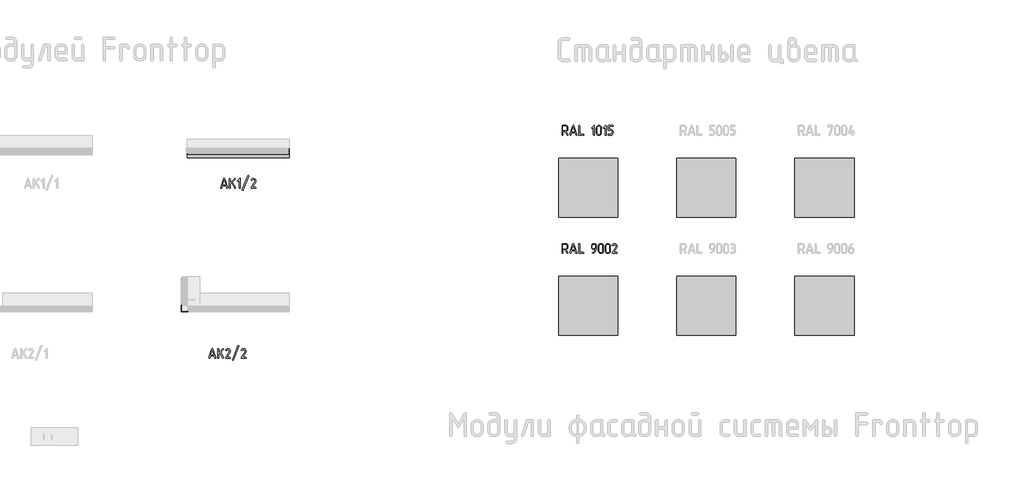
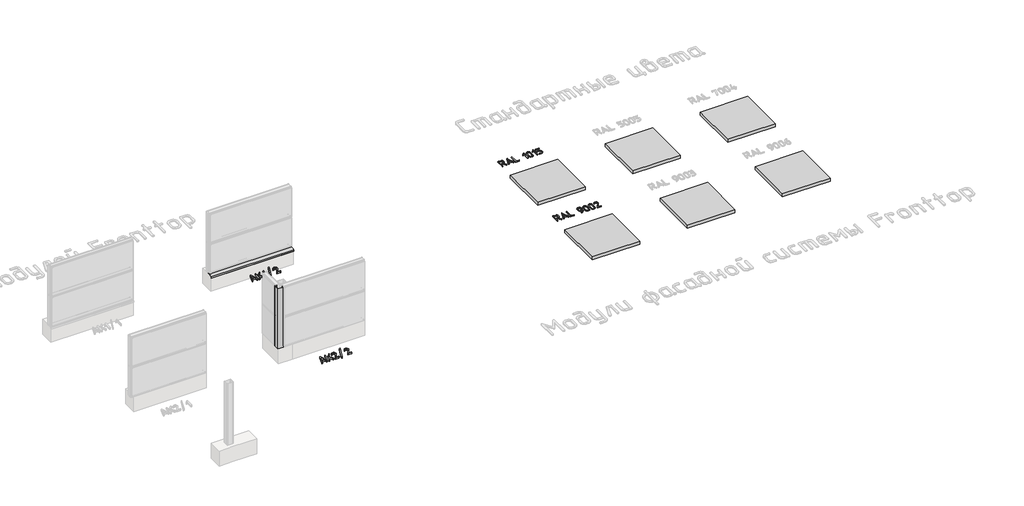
# One storey, part 22 of 37: 7 proxies.
"""IFC4 building model written with IfcOpenShell, lengths in millimetres."""

from ifc_helpers import new_model, si_unit, origin, origin_with_axes, place, context, project, spatial, polyline, outline, extrude, transform, mapped, element, save
from components import generic_models_6102174b, generic_models_f85f93ed, generic_models_7526b103

model = new_model("IFC4")

# Units and contexts
model_context = context("Model", 3, world=origin())
ifc_project = project(units=[si_unit("LENGTHUNIT", "METRE", prefix="MILLI")], contexts=[model_context])

# Site, building, storey
site = spatial("IfcSite", under=ifc_project)
building = spatial("IfcBuilding", under=site)
storey = spatial("IfcBuildingStorey", under=building, Name="Этаж 01", Elevation=0.0)

# Proxies
placement = place(None, origin())
element("IfcBuildingElementProxy", 1, Name="250 мм ГОСТ 2.304", ObjectType="250 мм ГОСТ 2.304", at=placement, inside=storey, context=model_context, shape_type="SweptSolid", body=[
    extrude(outline(polyline([(60439.8621304, -8724.8983844), (60490.1709623, -8805.0546203), (60491.9855844, -8812.3756817), (60488.1686208, -8820.760487), (60479.2206569, -8824.3897311), (60473.4795681, -8822.9349048), (60469.3966685, -8818.5704259), (60410.3275922, -8724.8983844), (60367.7152607, -8724.8983844), (60367.7152607, -8812.0002426), (60364.2424495, -8821.292359), (60355.3257722, -8824.3897311), (60346.3778083, -8821.1046395), (60342.5608447, -8812.0002426), (60342.5608447, -8587.8631332), (60345.7520766, -8578.2894376), (60355.3257722, -8575.0982057), (60442.4276305, -8575.0982057), (60461.5593785, -8578.7430931), (60477.4060348, -8589.6777552), (60488.340697, -8605.8059908), (60491.9855844, -8625.0315986), (60491.9855844, -8674.9649915), (60488.340697, -8694.1905992), (60477.4060348, -8710.3188348), (60461.5593785, -8721.253497), (60442.4276305, -8724.8983844), (60439.8621304, -8724.8983844)]), holes=[polyline([(60367.7152607, -8699.7439684), (60442.4276305, -8699.7439684), (60451.8996447, -8697.9684546), (60459.9168327, -8692.6419131), (60465.3841637, -8684.6716551), (60467.2066074, -8674.9649915), (60467.2066074, -8625.0315986), (60465.3841637, -8615.3249349), (60459.9168327, -8607.3546769), (60451.8996447, -8602.0281355), (60442.4276305, -8600.2526216), (60367.7152607, -8600.2526216), (60367.7152607, -8699.7439684)])]), origin_with_axes(), (0.0, 0.0, 1.0), 20.0),
    extrude(outline(polyline([(60586.5336504, -8761.6914107), (60568.7002958, -8815.6294867), (60564.4922498, -8821.9180907), (60556.9991122, -8824.0142921), (60548.2388678, -8820.7292004), (60544.2341847, -8812.3756817), (60545.3605018, -8807.6201205), (60620.0728717, -8583.483011), (60624.9848658, -8575.5518612), (60631.711482, -8572.9081446), (60638.8135373, -8575.5518612), (60643.3500924, -8583.483011), (60718.4379013, -8807.6201205), (60719.1887793, -8812.3756817), (60715.1840962, -8820.7292004), (60706.4238518, -8824.0142921), (60700.9799857, -8823.3259871), (60694.7852415, -8815.6294867), (60676.8893137, -8761.6914107), (60586.5336504, -8761.6914107)]), holes=[polyline([(60668.5045084, -8736.5369947), (60631.711482, -8626.5333547), (60594.9184557, -8736.5369947), (60668.5045084, -8736.5369947)])]), origin_with_axes(), (0.0, 0.0, 1.0), 20.0),
    extrude(outline(polyline([(60879.3135317, -8824.3897311), (60779.822185, -8824.3897311), (60770.2484894, -8821.292359), (60767.0572575, -8812.0002426), (60767.0572575, -8587.8631332), (60770.7177882, -8578.5710168), (60779.822185, -8575.0982057), (60788.3947099, -8578.3832973), (60792.2116735, -8587.8631332), (60792.2116735, -8799.6107542), (60879.3135317, -8799.6107542), (60888.6056481, -8803.0835653), (60891.7030202, -8812.0002426), (60888.4179286, -8820.5727675), (60879.3135317, -8824.3897311)])), origin_with_axes(), (0.0, 0.0, 1.0), 20.0),
    extrude(outline(polyline([(61166.1489616, -8812.0002426), (61162.6761504, -8821.292359), (61153.7594731, -8824.3897311), (61145.1869483, -8821.1046395), (61141.3699847, -8812.0002426), (61141.3699847, -8617.7731104), (61112.5863246, -8646.1813314), (61104.2015193, -8650.1860145), (61095.2535554, -8646.3690509), (61091.4365918, -8637.421087), (61095.4412749, -8628.7234158), (61144.9992288, -8579.1028888), (61155.9495342, -8573.6590227), (61163.239309, -8577.3195534), (61166.1489616, -8587.8631332), (61166.1489616, -8812.0002426)])), origin_with_axes(), (0.0, 0.0, 1.0), 20.0),
    extrude(outline(polyline([(61340.2275318, -8769.700777), (61336.2228487, -8790.9443696), (61324.2087993, -8808.7464376), (61306.6883105, -8820.4789077), (61285.5385777, -8824.3897311), (61270.5835891, -8824.3897311), (61249.3869264, -8820.4789077), (61231.6005017, -8808.7464376), (61219.5864522, -8790.9443696), (61215.5817691, -8769.700777), (61215.5817691, -8630.1625988), (61219.5864522, -8609.2005855), (61231.6005017, -8591.4923773), (61249.5433593, -8579.1967486), (61270.5835891, -8575.0982057), (61285.5385777, -8575.0982057), (61306.4927694, -8579.1107105), (61324.1775127, -8591.1482248), (61336.215027, -8608.9268279), (61340.2275318, -8630.1625988), (61340.2275318, -8769.700777)]), holes=[polyline([(61315.4485549, -8769.700777), (61315.4485549, -8630.1625988), (61313.2584938, -8618.6804214), (61306.6883105, -8609.012866), (61297.0207551, -8602.4426827), (61285.5385777, -8600.2526216), (61270.5835891, -8600.2526216), (61259.1092333, -8602.4426827), (61249.4651428, -8609.012866), (61242.9184245, -8618.6804214), (61240.7361851, -8630.1625988), (61240.7361851, -8769.700777), (61242.9184245, -8781.1829544), (61249.4651428, -8790.8505098), (61259.1092333, -8797.4206931), (61270.5835891, -8799.6107542), (61285.5385777, -8799.6107542), (61297.0207551, -8797.4206931), (61306.6883105, -8790.8505098), (61313.2584938, -8781.1829544), (61315.4485549, -8769.700777)])]), origin_with_axes(), (0.0, 0.0, 1.0), 20.0),
    extrude(outline(polyline([(61466.500197, -8812.0002426), (61463.0273859, -8821.292359), (61454.1107086, -8824.3897311), (61445.5381837, -8821.1046395), (61441.7212201, -8812.0002426), (61441.7212201, -8617.7731104), (61412.9375601, -8646.1813314), (61404.5527547, -8650.1860145), (61395.6047908, -8646.3690509), (61391.7878272, -8637.421087), (61395.7925104, -8628.7234158), (61445.3504642, -8579.1028888), (61456.3007697, -8573.6590227), (61463.5905445, -8577.3195534), (61466.500197, -8587.8631332), (61466.500197, -8812.0002426)])), origin_with_axes(), (0.0, 0.0, 1.0), 20.0),
    extrude(outline(polyline([(61541.0874205, -8600.2526216), (61541.0874205, -8674.9649915), (61578.2558859, -8674.9649915), (61602.1979466, -8679.5250115), (61622.338687, -8693.2050717), (61636.0187472, -8713.3458121), (61640.5787673, -8737.2878728), (61640.5787673, -8762.0668497), (61636.0187472, -8786.0480187), (61622.338687, -8806.1809375), (61602.1979466, -8819.8375327), (61578.2558859, -8824.3897311), (61528.6979321, -8824.3897311), (61519.4058157, -8820.760487), (61515.9330045, -8812.0002426), (61519.2180962, -8803.2399983), (61528.6979321, -8799.6107542), (61578.2558859, -8799.6107542), (61592.8354355, -8796.7011016), (61604.8807715, -8788.5040158), (61612.8901377, -8776.4586798), (61615.7997903, -8762.0668497), (61615.7997903, -8737.2878728), (61612.8901377, -8722.7083233), (61604.8807715, -8710.6629873), (61592.8354355, -8702.653621), (61578.2558859, -8699.7439684), (61528.6979321, -8699.7439684), (61519.1242364, -8696.6465963), (61515.9330045, -8687.3544799), (61515.9330045, -8587.8631332), (61519.1242364, -8578.2894376), (61528.6979321, -8575.0982057), (61628.1892788, -8575.0982057), (61637.4813951, -8578.7587364), (61640.5787673, -8587.8631332), (61637.2936756, -8596.435658), (61628.1892788, -8600.2526216), (61541.0874205, -8600.2526216)])), origin_with_axes(), (0.0, 0.0, 1.0), 20.0),
])
element("IfcBuildingElementProxy", 2, Name="250 мм ГОСТ 2.304", ObjectType="250 мм ГОСТ 2.304", at=placement, inside=storey, context=model_context, shape_type="SweptSolid", body=[
    extrude(outline(polyline([(60439.8621304, -11724.8983844), (60490.1709623, -11805.0546203), (60491.9855844, -11812.3756817), (60488.1686208, -11820.760487), (60479.2206569, -11824.3897311), (60473.4795681, -11822.9349048), (60469.3966685, -11818.5704259), (60410.3275922, -11724.8983844), (60367.7152607, -11724.8983844), (60367.7152607, -11812.0002426), (60364.2424495, -11821.292359), (60355.3257722, -11824.3897311), (60346.3778083, -11821.1046395), (60342.5608447, -11812.0002426), (60342.5608447, -11587.8631332), (60345.7520766, -11578.2894376), (60355.3257722, -11575.0982057), (60442.4276305, -11575.0982057), (60461.5593785, -11578.7430931), (60477.4060348, -11589.6777552), (60488.340697, -11605.8059908), (60491.9855844, -11625.0315986), (60491.9855844, -11674.9649915), (60488.340697, -11694.1905992), (60477.4060348, -11710.3188348), (60461.5593785, -11721.253497), (60442.4276305, -11724.8983844), (60439.8621304, -11724.8983844)]), holes=[polyline([(60367.7152607, -11699.7439684), (60442.4276305, -11699.7439684), (60451.8996447, -11697.9684546), (60459.9168327, -11692.6419131), (60465.3841637, -11684.6716551), (60467.2066074, -11674.9649915), (60467.2066074, -11625.0315986), (60465.3841637, -11615.3249349), (60459.9168327, -11607.3546769), (60451.8996447, -11602.0281355), (60442.4276305, -11600.2526216), (60367.7152607, -11600.2526216), (60367.7152607, -11699.7439684)])]), origin_with_axes(), (0.0, 0.0, 1.0), 20.0),
    extrude(outline(polyline([(60586.5336504, -11761.6914107), (60568.7002958, -11815.6294867), (60564.4922498, -11821.9180907), (60556.9991122, -11824.0142921), (60548.2388678, -11820.7292004), (60544.2341847, -11812.3756817), (60545.3605018, -11807.6201205), (60620.0728717, -11583.483011), (60624.9848658, -11575.5518612), (60631.711482, -11572.9081446), (60638.8135373, -11575.5518612), (60643.3500924, -11583.483011), (60718.4379013, -11807.6201205), (60719.1887793, -11812.3756817), (60715.1840962, -11820.7292004), (60706.4238518, -11824.0142921), (60700.9799857, -11823.3259871), (60694.7852415, -11815.6294867), (60676.8893137, -11761.6914107), (60586.5336504, -11761.6914107)]), holes=[polyline([(60668.5045084, -11736.5369947), (60631.711482, -11626.5333547), (60594.9184557, -11736.5369947), (60668.5045084, -11736.5369947)])]), origin_with_axes(), (0.0, 0.0, 1.0), 20.0),
    extrude(outline(polyline([(60879.3135317, -11824.3897311), (60779.822185, -11824.3897311), (60770.2484894, -11821.292359), (60767.0572575, -11812.0002426), (60767.0572575, -11587.8631332), (60770.7177882, -11578.5710168), (60779.822185, -11575.0982057), (60788.3947099, -11578.3832973), (60792.2116735, -11587.8631332), (60792.2116735, -11799.6107542), (60879.3135317, -11799.6107542), (60888.6056481, -11803.0835653), (60891.7030202, -11812.0002426), (60888.4179286, -11820.5727675), (60879.3135317, -11824.3897311)])), origin_with_axes(), (0.0, 0.0, 1.0), 20.0),
    extrude(outline(polyline([(61186.5478163, -11724.8983844), (61141.3699847, -11724.8983844), (61122.1443769, -11721.253497), (61106.0161413, -11710.3188348), (61095.0814792, -11694.1905992), (61091.4365918, -11674.9649915), (61091.4365918, -11625.0315986), (61095.0814792, -11605.8059908), (61106.0161413, -11589.6777552), (61122.1443769, -11578.7430931), (61141.3699847, -11575.0982057), (61166.1489616, -11575.0982057), (61185.5622888, -11578.7430931), (61201.5028049, -11589.6777552), (61212.4374671, -11605.8059908), (61216.0823545, -11625.0315986), (61216.0823545, -11686.9790409), (61212.7972629, -11722.0825915), (61202.9419879, -11754.4329225), (61191.0609065, -11776.4430365), (61175.0656389, -11795.7937906), (61155.7070632, -11811.6873768), (61133.7360574, -11823.3259871), (61128.6050572, -11824.3897311), (61120.0638189, -11820.385048), (61116.5910078, -11811.2493645), (61118.4056298, -11804.8981874), (61124.224935, -11800.3616323), (61141.9957164, -11791.0382293), (61157.3887172, -11778.4610213), (61170.0441417, -11762.8959443), (61179.602194, -11744.6089342), (61183.2940113, -11734.9413788), (61186.5478163, -11724.8983844)]), holes=[polyline([(61190.5524995, -11699.3998159), (61190.740219, -11695.2074133), (61191.115658, -11685.5711445), (61191.3033776, -11664.390125), (61191.3033776, -11625.0315986), (61189.4809339, -11615.3249349), (61184.0136028, -11607.3546769), (61175.9025551, -11602.0281355), (61166.1489616, -11600.2526216), (61141.3699847, -11600.2526216), (61131.6633211, -11602.0281355), (61123.693063, -11607.3546769), (61118.3665216, -11615.3249349), (61116.5910078, -11625.0315986), (61116.5910078, -11674.9649915), (61118.3665216, -11684.6716551), (61123.693063, -11692.6419131), (61131.6633211, -11697.9684546), (61141.3699847, -11699.7439684), (61190.5524995, -11699.3998159)])]), origin_with_axes(), (0.0, 0.0, 1.0), 20.0),
    extrude(outline(polyline([(61392.2884126, -11769.700777), (61388.2837295, -11790.9443696), (61376.2696801, -11808.7464376), (61358.7491913, -11820.4789077), (61337.5994585, -11824.3897311), (61322.6444699, -11824.3897311), (61301.4478072, -11820.4789077), (61283.6613825, -11808.7464376), (61271.6473331, -11790.9443696), (61267.6426499, -11769.700777), (61267.6426499, -11630.1625988), (61271.6473331, -11609.2005855), (61283.6613825, -11591.4923773), (61301.6042401, -11579.1967486), (61322.6444699, -11575.0982057), (61337.5994585, -11575.0982057), (61358.5536502, -11579.1107105), (61376.2383935, -11591.1482248), (61388.2759078, -11608.9268279), (61392.2884126, -11630.1625988), (61392.2884126, -11769.700777)]), holes=[polyline([(61367.5094357, -11769.700777), (61367.5094357, -11630.1625988), (61365.3193746, -11618.6804214), (61358.7491913, -11609.012866), (61349.0816359, -11602.4426827), (61337.5994585, -11600.2526216), (61322.6444699, -11600.2526216), (61311.1701141, -11602.4426827), (61301.5260237, -11609.012866), (61294.9793053, -11618.6804214), (61292.7970659, -11630.1625988), (61292.7970659, -11769.700777), (61294.9793053, -11781.1829544), (61301.5260237, -11790.8505098), (61311.1701141, -11797.4206931), (61322.6444699, -11799.6107542), (61337.5994585, -11799.6107542), (61349.0816359, -11797.4206931), (61358.7491913, -11790.8505098), (61365.3193746, -11781.1829544), (61367.5094357, -11769.700777)])]), origin_with_axes(), (0.0, 0.0, 1.0), 20.0),
    extrude(outline(polyline([(61568.4944708, -11769.700777), (61564.4897876, -11790.9443696), (61552.4757382, -11808.7464376), (61534.9552495, -11820.4789077), (61513.8055166, -11824.3897311), (61498.850528, -11824.3897311), (61477.6538653, -11820.4789077), (61459.8674406, -11808.7464376), (61447.8533912, -11790.9443696), (61443.848708, -11769.700777), (61443.848708, -11630.1625988), (61447.8533912, -11609.2005855), (61459.8674406, -11591.4923773), (61477.8102983, -11579.1967486), (61498.850528, -11575.0982057), (61513.8055166, -11575.0982057), (61534.7597083, -11579.1107105), (61552.4444516, -11591.1482248), (61564.481966, -11608.9268279), (61568.4944708, -11630.1625988), (61568.4944708, -11769.700777)]), holes=[polyline([(61543.7154938, -11769.700777), (61543.7154938, -11630.1625988), (61541.5254327, -11618.6804214), (61534.9552495, -11609.012866), (61525.2876941, -11602.4426827), (61513.8055166, -11600.2526216), (61498.850528, -11600.2526216), (61487.3761722, -11602.4426827), (61477.7320818, -11609.012866), (61471.1853635, -11618.6804214), (61469.003124, -11630.1625988), (61469.003124, -11769.700777), (61471.1853635, -11781.1829544), (61477.7320818, -11790.8505098), (61487.3761722, -11797.4206931), (61498.850528, -11799.6107542), (61513.8055166, -11799.6107542), (61525.2876941, -11797.4206931), (61534.9552495, -11790.8505098), (61541.5254327, -11781.1829544), (61543.7154938, -11769.700777)])]), origin_with_axes(), (0.0, 0.0, 1.0), 20.0),
    extrude(outline(polyline([(61735.5648455, -11671.3357474), (61655.0331705, -11799.6107542), (61732.3110404, -11799.6107542), (61741.6031568, -11803.0835653), (61744.7005289, -11812.0002426), (61741.4154372, -11820.5727675), (61732.3110404, -11824.3897311), (61632.8196937, -11824.3897311), (61622.6828395, -11821.933734), (61619.3038881, -11814.5657428), (61622.2448273, -11805.0546203), (61714.1022468, -11658.5708199), (61718.7952348, -11639.9865872), (61715.6978627, -11624.5935864), (61706.4057464, -11611.9538052), (61692.3737121, -11603.1779175), (61675.8074643, -11600.2526216), (61657.2232316, -11605.3523353), (61643.019121, -11619.2122934), (61638.8423617, -11623.5767723), (61632.8196937, -11625.0315986), (61624.0594493, -11621.590074), (61620.0547662, -11613.0175492), (61622.2448273, -11606.0719268), (61632.2721784, -11593.557292), (61644.8337431, -11583.6707305), (61659.0378536, -11577.2413369), (61673.9928422, -11575.0982057), (61700.6803009, -11580.0258431), (61723.175357, -11594.8087555), (61738.4744981, -11615.9584883), (61743.5742117, -11640.7374653), (61741.5718702, -11656.3964021), (61735.5648455, -11671.3357474)])), origin_with_axes(), (0.0, 0.0, 1.0), 20.0),
])
element("IfcBuildingElementProxy", 3, Name="250 мм ГОСТ 2.304", ObjectType="250 мм ГОСТ 2.304", at=placement, inside=storey, context=model_context, shape_type="SweptSolid", body=[
    extrude(outline(polyline([(51720.8154984, -10106.1300608), (51702.9821438, -10160.0681368), (51698.7740979, -10166.3567408), (51691.2809603, -10168.4529422), (51682.5207159, -10165.1678505), (51678.5160328, -10156.8143318), (51679.6423499, -10152.0587706), (51754.3547197, -9927.9216611), (51759.2667139, -9919.9905113), (51765.9933301, -9917.3467947), (51773.0953853, -9919.9905113), (51777.6319404, -9927.9216611), (51852.7197493, -10152.0587706), (51853.4706274, -10156.8143318), (51849.4659443, -10165.1678505), (51840.7056999, -10168.4529422), (51835.2618338, -10167.7646372), (51829.0670895, -10160.0681368), (51811.1711617, -10106.1300608), (51720.8154984, -10106.1300608)]), holes=[polyline([(51802.7863564, -10080.9756448), (51765.9933301, -9970.9720048), (51729.2003037, -10080.9756448), (51802.7863564, -10080.9756448)])]), origin_with_axes(), (0.0, 0.0, 1.0), 50.0),
    extrude(outline(polyline([(51926.4935215, -10027.4130078), (52031.0532954, -9923.5415389), (52039.8135397, -9919.5368558), (52048.7615036, -9923.385106), (52052.5784672, -9932.3017833), (52048.5737841, -9941.0620276), (51974.6122924, -10015.0235194), (52050.7638452, -10150.2441485), (52052.5784672, -10156.8143318), (52048.5737841, -10165.7310091), (52039.4381007, -10169.2038202), (52033.3528595, -10167.4674147), (52028.8632343, -10162.2581979), (51956.0280597, -10032.1685691), (51926.4935215, -10061.3276682), (51926.4935215, -10156.4388927), (51923.0207104, -10165.7310091), (51914.1040331, -10168.8283812), (51905.1560692, -10165.5432896), (51901.3391055, -10156.4388927), (51901.3391055, -9932.3017833), (51905.1560692, -9923.1973865), (51914.1040331, -9919.9122948), (51922.6765579, -9923.1973865), (51926.4935215, -9932.3017833), (51926.4935215, -10027.4130078)])), origin_with_axes(), (0.0, 0.0, 1.0), 50.0),
    extrude(outline(polyline([(52176.2856323, -10156.4388927), (52172.8128212, -10165.7310091), (52163.8961439, -10168.8283812), (52155.323619, -10165.5432896), (52151.5066554, -10156.4388927), (52151.5066554, -9962.2117605), (52122.7229953, -9990.6199815), (52114.33819, -9994.6246646), (52105.3902261, -9990.807701), (52101.5732625, -9981.8597371), (52105.5779457, -9973.1620659), (52155.1358995, -9923.5415389), (52166.086205, -9918.0976728), (52173.3759797, -9921.7582035), (52176.2856323, -9932.3017833), (52176.2856323, -10156.4388927)])), origin_with_axes(), (0.0, 0.0, 1.0), 50.0),
    extrude(outline(polyline([(52387.1572289, -9861.9695356), (52250.1219777, -10210.7524078), (52245.3977031, -10216.571713), (52238.8588064, -10218.7617741), (52229.723123, -10215.2889629), (52225.7184398, -10206.3722856), (52226.4693179, -10201.6167244), (52363.5045691, -9852.8964254), (52368.2288437, -9847.014547), (52374.7677404, -9844.824486), (52383.9034238, -9848.4850166), (52387.908107, -9857.2139744), (52387.1572289, -9861.9695356)])), origin_with_axes(), (0.0, 0.0, 1.0), 50.0),
    extrude(outline(polyline([(52565.4907749, -10015.7743975), (52484.9590999, -10144.0494043), (52562.2369699, -10144.0494043), (52571.5290862, -10147.5222154), (52574.6264583, -10156.4388927), (52571.3413667, -10165.0114176), (52562.2369699, -10168.8283812), (52462.7456231, -10168.8283812), (52452.6087689, -10166.3723841), (52449.2298175, -10159.0043929), (52452.1707567, -10149.4932704), (52544.0281762, -10003.00947), (52548.7211643, -9984.4252373), (52545.6237922, -9969.0322364), (52536.3316758, -9956.3924553), (52522.2996415, -9947.6165676), (52505.7333937, -9944.6912717), (52487.149161, -9949.7909854), (52472.9450505, -9963.6509435), (52468.7682911, -9968.0154224), (52462.7456231, -9969.4702487), (52453.9853788, -9966.0287241), (52449.9806956, -9957.4561992), (52452.1707567, -9950.5105769), (52462.1981079, -9937.9959421), (52474.7596726, -9928.1093806), (52488.9637831, -9921.679987), (52503.9187717, -9919.5368558), (52530.6062304, -9924.4644932), (52553.1012865, -9939.2474056), (52568.4004275, -9960.3971384), (52573.5001412, -9985.1761154), (52571.4977996, -10000.8350522), (52565.4907749, -10015.7743975)])), origin_with_axes(), (0.0, 0.0, 1.0), 50.0),
])
element("IfcBuildingElementProxy", 4, Name="250 мм ГОСТ 2.304", ObjectType="250 мм ГОСТ 2.304", at=placement, inside=storey, context=model_context, shape_type="SweptSolid", body=[
    extrude(outline(polyline([(51420.8154984, -14426.1300608), (51402.9821438, -14480.0681368), (51398.7740979, -14486.3567408), (51391.2809603, -14488.4529422), (51382.5207159, -14485.1678505), (51378.5160328, -14476.8143318), (51379.6423499, -14472.0587706), (51454.3547197, -14247.9216611), (51459.2667139, -14239.9905113), (51465.9933301, -14237.3467947), (51473.0953853, -14239.9905113), (51477.6319404, -14247.9216611), (51552.7197493, -14472.0587706), (51553.4706274, -14476.8143318), (51549.4659443, -14485.1678505), (51540.7056999, -14488.4529422), (51535.2618338, -14487.7646372), (51529.0670895, -14480.0681368), (51511.1711617, -14426.1300608), (51420.8154984, -14426.1300608)]), holes=[polyline([(51502.7863564, -14400.9756448), (51465.9933301, -14290.9720048), (51429.2003037, -14400.9756448), (51502.7863564, -14400.9756448)])]), origin_with_axes(), (0.0, 0.0, 1.0), 50.0),
    extrude(outline(polyline([(51626.4935215, -14347.4130078), (51731.0532954, -14243.5415389), (51739.8135397, -14239.5368558), (51748.7615036, -14243.385106), (51752.5784672, -14252.3017833), (51748.5737841, -14261.0620276), (51674.6122924, -14335.0235194), (51750.7638452, -14470.2441485), (51752.5784672, -14476.8143318), (51748.5737841, -14485.7310091), (51739.4381007, -14489.2038202), (51733.3528595, -14487.4674147), (51728.8632343, -14482.2581979), (51656.0280597, -14352.1685691), (51626.4935215, -14381.3276682), (51626.4935215, -14476.4388927), (51623.0207104, -14485.7310091), (51614.1040331, -14488.8283812), (51605.1560692, -14485.5432896), (51601.3391055, -14476.4388927), (51601.3391055, -14252.3017833), (51605.1560692, -14243.1973865), (51614.1040331, -14239.9122948), (51622.6765579, -14243.1973865), (51626.4935215, -14252.3017833), (51626.4935215, -14347.4130078)])), origin_with_axes(), (0.0, 0.0, 1.0), 50.0),
    extrude(outline(polyline([(51917.0833418, -14335.7743975), (51836.5516668, -14464.0494043), (51913.8295368, -14464.0494043), (51923.1216531, -14467.5222154), (51926.2190252, -14476.4388927), (51922.9339336, -14485.0114176), (51913.8295368, -14488.8283812), (51814.33819, -14488.8283812), (51804.2013358, -14486.3723841), (51800.8223844, -14479.0043929), (51803.7633236, -14469.4932704), (51895.6207431, -14323.00947), (51900.3137312, -14304.4252373), (51897.2163591, -14289.0322364), (51887.9242427, -14276.3924553), (51873.8922084, -14267.6165676), (51857.3259606, -14264.6912717), (51838.7417279, -14269.7909854), (51824.5376174, -14283.6509435), (51820.360858, -14288.0154224), (51814.33819, -14289.4702487), (51805.5779457, -14286.0287241), (51801.5732625, -14277.4561992), (51803.7633236, -14270.5105769), (51813.7906747, -14257.9959421), (51826.3522394, -14248.1093806), (51840.5563499, -14241.679987), (51855.5113385, -14239.5368558), (51882.1987973, -14244.4644932), (51904.6938534, -14259.2474056), (51919.9929944, -14280.3971384), (51925.0927081, -14305.1761154), (51923.0903665, -14320.8350522), (51917.0833418, -14335.7743975)])), origin_with_axes(), (0.0, 0.0, 1.0), 50.0),
    extrude(outline(polyline([(52139.2181097, -14181.9695356), (52002.1828585, -14530.7524078), (51997.4585839, -14536.571713), (51990.9196872, -14538.7617741), (51981.7840038, -14535.2889629), (51977.7793206, -14526.3722856), (51978.5301987, -14521.6167244), (52115.5654499, -14172.8964254), (52120.2897245, -14167.014547), (52126.8286212, -14164.824486), (52135.9643046, -14168.4850166), (52139.9689878, -14177.2139744), (52139.2181097, -14181.9695356)])), origin_with_axes(), (0.0, 0.0, 1.0), 50.0),
    extrude(outline(polyline([(52317.5516557, -14335.7743975), (52237.0199807, -14464.0494043), (52314.2978507, -14464.0494043), (52323.589967, -14467.5222154), (52326.6873392, -14476.4388927), (52323.4022475, -14485.0114176), (52314.2978507, -14488.8283812), (52214.806504, -14488.8283812), (52204.6696498, -14486.3723841), (52201.2906984, -14479.0043929), (52204.2316375, -14469.4932704), (52296.089057, -14323.00947), (52300.7820451, -14304.4252373), (52297.684673, -14289.0322364), (52288.3925566, -14276.3924553), (52274.3605224, -14267.6165676), (52257.7942745, -14264.6912717), (52239.2100418, -14269.7909854), (52225.0059313, -14283.6509435), (52220.829172, -14288.0154224), (52214.806504, -14289.4702487), (52206.0462596, -14286.0287241), (52202.0415764, -14277.4561992), (52204.2316375, -14270.5105769), (52214.2589887, -14257.9959421), (52226.8205534, -14248.1093806), (52241.0246639, -14241.679987), (52255.9796525, -14239.5368558), (52282.6671112, -14244.4644932), (52305.1621673, -14259.2474056), (52320.4613083, -14280.3971384), (52325.561022, -14305.1761154), (52323.5586805, -14320.8350522), (52317.5516557, -14335.7743975)])), origin_with_axes(), (0.0, 0.0, 1.0), 50.0),
])
generic_models_shape = generic_models_6102174b(model_context)
element("IfcBuildingElementProxy", 5, Name="АК1_2 Примыкание к фундаментной балке : АК1_2 Примыкание к фундаментной балке", ObjectType="АК1_2 Примыкание к фундаментной балке : АК1_2 Примыкание к фундаментной балке", at=placement, inside=storey, context=model_context, shape_type="MappedRepresentation", body=[
    mapped(generic_models_shape, transform((50823.7069431, -9370.1316508, 0.0), x_axis=(1.0, 0.0, 0.0), y_axis=(0.0, 1.0, 0.0), z_axis=(0.0, 0.0, 1.0))),
])
generic_models_2_shape = generic_models_f85f93ed(model_context)
element("IfcBuildingElementProxy", 6, Name="АК2_2 Обрамление наружного угла.dwg : АК2_2 Обрамление наружного угла.dwg", ObjectType="АК2_2 Обрамление наружного угла.dwg : АК2_2 Обрамление наружного угла.dwg", at=placement, inside=storey, context=model_context, shape_type="MappedRepresentation", body=[
    mapped(generic_models_2_shape, transform((50698.7069431, -13127.6316508, 2024.9720408), x_axis=(0.0, 0.0, -1.0), y_axis=(0.0, -1.0, 0.0), z_axis=(-1.0, 0.0, 0.0))),
])
generic_models_3_shape = generic_models_7526b103(model_context)
element("IfcBuildingElementProxy", 7, Name="Стандартные цвета : Стандартные цвета", ObjectType="Стандартные цвета : Стандартные цвета", at=placement, inside=storey, context=model_context, shape_type="MappedRepresentation", body=[
    mapped(generic_models_3_shape, transform((60255.685559, -10904.11744, 0.0), x_axis=(1.0, 0.0, 0.0), y_axis=(0.0, 1.0, 0.0), z_axis=(0.0, 0.0, 1.0))),
])

save(model, "model.ifc")
